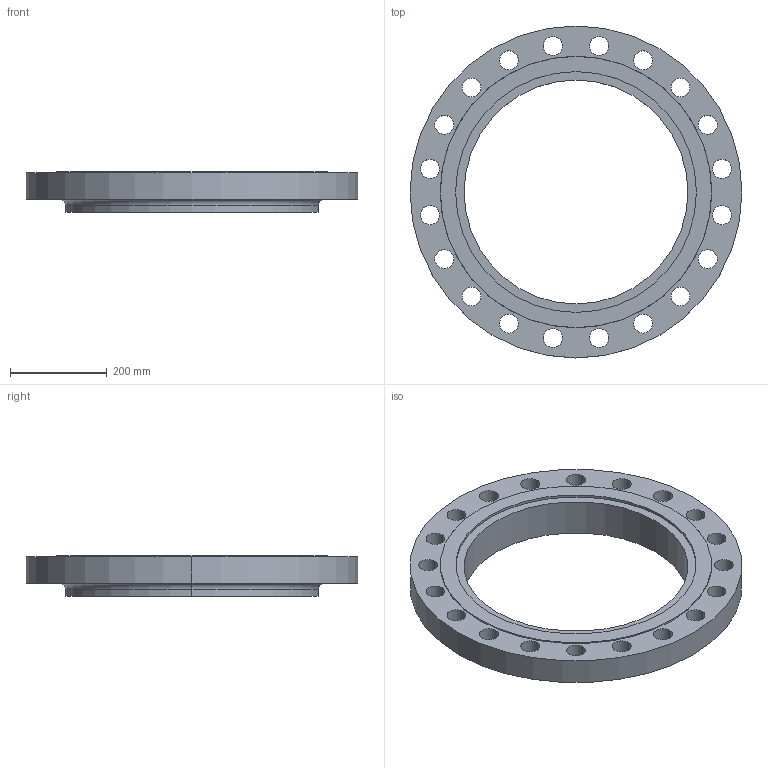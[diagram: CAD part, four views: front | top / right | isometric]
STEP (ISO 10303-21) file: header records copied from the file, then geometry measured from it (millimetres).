
FILE_DESCRIPTION (( 'STEP AP214' ), '1' );
FILE_NAME ('PN40 DN450 Type 12 - Type G Face.STEP', '2018-12-29T02:34:46', ( '' ), ( '' ), 'SwSTEP 2.0', 'SolidWorks 2019', '' );
FILE_SCHEMA (( 'AUTOMOTIVE_DESIGN' ));
Length unit declared in the file: millimetre
Products named in the file (1): PN40 DN450 Type 12 - Type G Face
Bounding box: 685 x 685 x 84 mm (x, y, z)
Volume: 11051036.9 mm3; surface area: 768503.4 mm2
Topology: 1 solids, 1 shells, 57 faces, 154 edges, 102 vertices
Faces by surface type: cylinder 48, plane 5, torus 2, cone 2
Entity records: 1974 total; most frequent: DIRECTION 374, CARTESIAN_POINT 314, ORIENTED_EDGE 308, AXIS2_PLACEMENT_3D 162, EDGE_CURVE 154, CIRCLE 104, EDGE_LOOP 102, VERTEX_POINT 102
